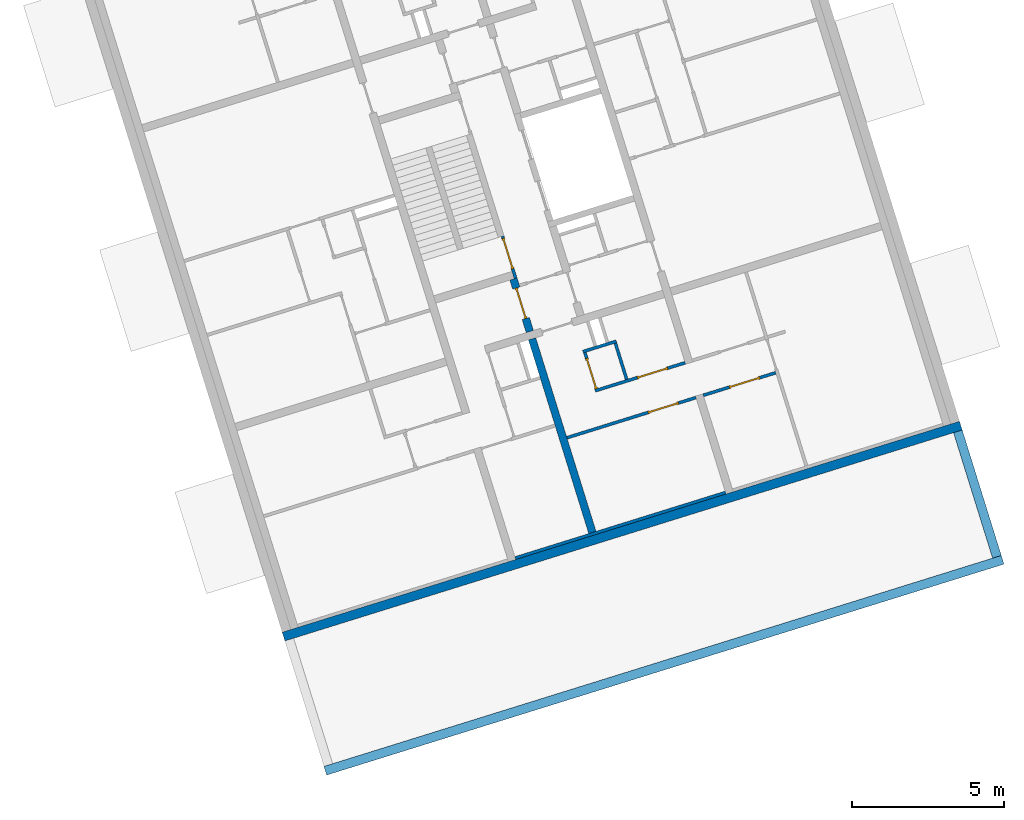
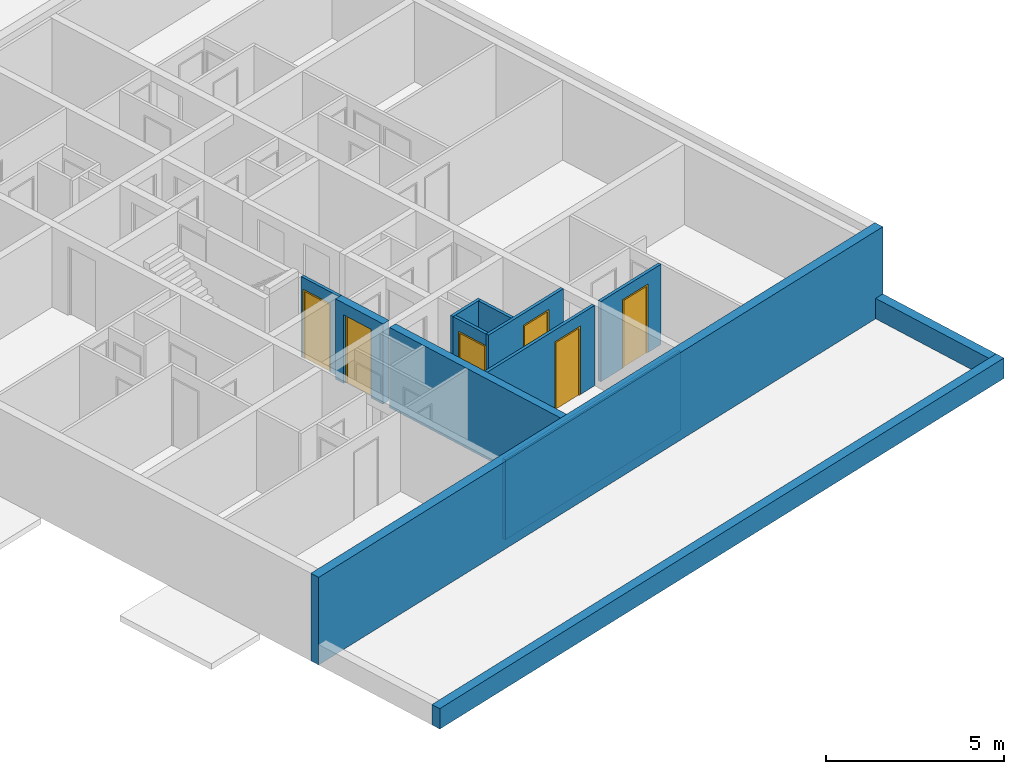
# One storey, part 3 of 9: 13 walls, 6 doors, 7 openings.
"""IFC4 building model written with IfcOpenShell, lengths in metres."""

from ifc_helpers import new_model, entity, si_unit, converted_unit, direction, frame, origin, place, context, subcontext, project, spatial, indexed_curve, outline, extrude, polygons, source, transform, mapped, material, constituent, constituent_set, type_object, type_shapes, element, fill, save


model = new_model("IFC4")

# Units and contexts
model_context = context("Model", 3, precision=1e-05, world=origin(), true_north=direction((6.12323399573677e-17, 1.0)))
body_context = subcontext(model_context, "Body", "Model", "MODEL_VIEW")
ifc_project = project(units=[si_unit("LENGTHUNIT", "METRE"), si_unit("AREAUNIT", "SQUARE_METRE"), converted_unit("PLANEANGLEUNIT", "DEGREE", entity("IfcPlaneAngleMeasure", 0.0174532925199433), si_unit("PLANEANGLEUNIT", "RADIAN"), dimensions=[0, 0, 0, 0, 0, 0, 0]), si_unit("VOLUMEUNIT", "CUBIC_METRE")], contexts=[model_context])

# Site, building, storey
site_placement = place(None, frame((13.1347999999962, 11.9886000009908, 0.0), z_axis=(0.0, 0.0, 1.0), x_axis=(0.954770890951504, 0.297342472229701, 0.0)))
site = spatial("IfcSite", under=ifc_project, at=site_placement, Name="Schiehaven", CompositionType="ELEMENT")
building_placement = place(site_placement, origin())
building = spatial("IfcBuilding", under=site, at=building_placement, Name="VORM huis", CompositionType="ELEMENT")
storey_placement = place(building_placement, frame((0.0, 0.0, 6.9)))
storey = spatial("IfcBuildingStorey", under=building, at=storey_placement, Name="02 tweede verdieping", CompositionType="ELEMENT", Elevation=6.9)

# Walls
ifc_material_1 = material(Name="ntb_ntb_ntb", Category="Miscellaneous")
wall_type_1 = type_object("IfcWallType", Name="Basic Wall:21_WA_gevel_binnenspouwwand 100mm_gen", PredefinedType="STANDARD")
wall_1_placement = place(storey_placement, frame((65.1250000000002, 5.0499999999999, 0.0)))
element("IfcWall", 1, at=wall_1_placement, inside=storey, type_object=wall_type_1, material=ifc_material_1, Name="Binnenspouwblad", ObjectType="Wand", PredefinedType="NOTDEFINED", context=body_context, shape_type="SweptSolid", body=[
    extrude(outline(indexed_curve([(7.24999999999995, 0.0500000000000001), (1.59680748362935e-16, 0.0500000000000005), (-1.59680748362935e-16, -0.0500000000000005), (7.24999999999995, -0.050000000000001), (7.24999999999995, 0.0500000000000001)], self_intersect=False)), origin(), (0.0, 0.0, 1.0), 2.75),
])
wall_type_2 = type_object("IfcWallType", Name="Basic Wall: 300mm_gen", PredefinedType="STANDARD")
wall_2_placement = place(storey_placement, frame((57.075, 4.8499999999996, 0.0)))
element("IfcWall", 2, at=wall_2_placement, inside=storey, type_object=wall_type_2, material=ifc_material_1, Name="Gevelwand", ObjectType="Wand", PredefinedType="NOTDEFINED", context=body_context, shape_type="SweptSolid", body=[
    extrude(outline(indexed_curve([(23.3500000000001, 0.15), (1.78509395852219e-15, 0.149999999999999), (-1.78509395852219e-15, -0.15), (23.3500000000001, -0.15), (23.3500000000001, 0.15)], self_intersect=False)), origin(), (0.0, 0.0, 1.0), 3.0),
])
wall_3_placement = place(storey_placement, frame((57.0750000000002, 0.22499999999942, 0.0)))
element("IfcWall", 3, at=wall_3_placement, inside=storey, type_object=wall_type_2, material=ifc_material_1, Name="Gevelwand", ObjectType="Wand", PredefinedType="NOTDEFINED", context=body_context, shape_type="SweptSolid", body=[
    extrude(outline(indexed_curve([(23.3500000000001, 0.15), (-2.93486760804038e-15, 0.15), (2.93486760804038e-15, -0.15), (23.3500000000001, -0.15), (23.3500000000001, 0.15)], self_intersect=False)), origin(), (0.0, 0.0, 1.0), 0.700000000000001),
])
wall_4_placement = place(storey_placement, frame((80.2750000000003, 0.374999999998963, 0.0), z_axis=(0.0, 0.0, 1.0), x_axis=(0.0, 1.0, 0.0)))
element("IfcWall", 4, at=wall_4_placement, inside=storey, type_object=wall_type_2, material=ifc_material_1, Name="Gevelwand", ObjectType="Wand", PredefinedType="NOTDEFINED", context=body_context, shape_type="SweptSolid", body=[
    extrude(outline(indexed_curve([(4.32500000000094, 0.150000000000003), (-9.06894673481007e-17, 0.150000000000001), (9.06894673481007e-17, -0.150000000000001), (4.32500000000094, -0.149999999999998), (4.32500000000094, 0.150000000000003)], self_intersect=False)), origin(), (0.0, 0.0, 1.0), 0.700000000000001),
])
wall_type_3 = type_object("IfcWallType", Name="Basic Wall:22_WA_afbouw_binnenwand 250mm_gen", PredefinedType="STANDARD")
wall_5_placement = place(storey_placement, frame((67.7999999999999, 11.7749999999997, 0.0), z_axis=(0.0, 0.0, 1.0), x_axis=(0.0, -1.0, 0.0)))
element("IfcWall", 5, at=wall_5_placement, inside=storey, type_object=wall_type_3, material=ifc_material_1, Name="Binnenwand", ObjectType="Wand", PredefinedType="NOTDEFINED", context=body_context, shape_type="SweptSolid", body=[
    extrude(outline(indexed_curve([(6.67500000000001, 0.124999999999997), (-6.98570836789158e-16, 0.124999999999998), (6.98570836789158e-16, -0.124999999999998), (6.67500000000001, -0.124999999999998), (6.67500000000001, 0.124999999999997)], self_intersect=False)), origin(), (0.0, 0.0, 1.0), 2.75),
])

# Wall, opening, door
wall_6_placement = place(storey_placement, frame((67.7999999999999, 13.8399999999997, 0.0), z_axis=(0.0, 0.0, 1.0), x_axis=(0.0, -1.0, 0.0)))
wall_6 = element("IfcWall", 6, at=wall_6_placement, inside=storey, type_object=wall_type_3, material=ifc_material_1, Name="Binnenwand", ObjectType="Wand", PredefinedType="NOTDEFINED", context=body_context, shape_type="Tessellation", body=[
    polygons([(0.0, -0.125000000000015, 1.08286712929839e-15), (0.315000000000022, -0.125000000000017, 1.08286712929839e-15), (0.315000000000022, -0.125000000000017, 2.34999999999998), (1.36500000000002, -0.125000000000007, 2.34999999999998), (1.36500000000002, -0.125000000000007, 1.08286712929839e-15), (1.815, -0.12500000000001, 1.08286712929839e-15), (1.815, -0.12500000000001, 2.75), (0.0, -0.125000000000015, 2.75), (0.315000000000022, 0.124999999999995, 2.34999999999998), (0.315000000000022, 0.124999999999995, 1.08286712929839e-15), (0.215000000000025, 0.124999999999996, 0.0), (0.0, 0.124999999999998, 1.08286712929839e-15), (0.0, 0.124999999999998, 2.75), (0.215000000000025, 0.124999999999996, 2.75), (0.315000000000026, 0.124999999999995, 2.75), (1.815, 0.125000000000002, 2.75), (1.815, 0.125000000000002, 1.08286712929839e-15), (1.36500000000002, 0.125000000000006, 1.08286712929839e-15), (1.36500000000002, 0.125000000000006, 2.34999999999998), (0.0, 0.0250000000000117, 0.0), (0.0, 0.0250000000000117, 2.75)], [[[1, 2, 3, 4, 5, 6, 7, 8]], [[9, 10, 11, 12, 13, 14, 15, 16, 17, 18, 19]], [[12, 11, 10, 2, 1, 20]], [[7, 6, 17, 16]], [[8, 7, 16, 15, 14, 13, 21]], [[5, 4, 19, 18]], [[3, 2, 10, 9]], [[4, 3, 9, 19]], [[1, 8, 21, 13, 12, 20]], [[18, 17, 6, 5]]], closed=True),
])
opening_1_placement = place(wall_6_placement, frame((0.31500000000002, -0.124999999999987, 0.0)))
opening_1 = element("IfcOpeningElement", 7, at=opening_1_placement, cuts=wall_6, Name="Woningtoegangsdeur", PredefinedType="OPENING", context=body_context, shape_type="SweptSolid", body=[
    extrude(outline(indexed_curve([(2.34999999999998, 1.05), (0.0, 1.05), (0.0, 1.35358391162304e-15), (2.34999999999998, 1.35358391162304e-15), (2.34999999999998, 1.05)], self_intersect=False)), frame((0.0, 0.0, 0.0), z_axis=(0.0, 1.0, 0.0), x_axis=(0.0, 0.0, 1.0)), (0.0, 0.0, 1.0), 0.25),
])
ifc_material_2 = material(Name="PD_a_binnenwandopeningen", Category="Miscellaneous")
ifc_constituent_1 = constituent(ifc_material_2, Name="PD_a_binnenwandopeningen", Category="Miscellaneous")
ifc_material_3 = material(Name="metaal_aluminium_ntb", Category="Miscellaneous")
ifc_constituent_2 = constituent(ifc_material_3, Name="metaal_aluminium_ntb", Category="Miscellaneous")
ifc_constituent_set_1 = constituent_set(constituents=[ifc_constituent_1, ifc_constituent_2])
ifc_constituent_3 = constituent(ifc_material_2, Name="PD_a_binnenwandopeningen", Category="Miscellaneous")
ifc_constituent_4 = constituent(ifc_material_3, Name="Panel", Category="Miscellaneous")
ifc_constituent_set_2 = constituent_set(constituents=[ifc_constituent_3, ifc_constituent_4])
door_type_1 = type_object("IfcDoorType", Name="32_DO_binnendeur enkel:woningtoegangsdeur", OperationType="REVOLVING", PredefinedType="DOOR", material=ifc_constituent_set_2)
shared_shape_1 = source(origin(), body_context, "Body", "SweptSolid", [
    extrude(outline(indexed_curve([(-1.16249999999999, -0.525000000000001), (1.18749999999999, -0.525), (1.18749999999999, 0.525000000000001), (-1.16249999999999, 0.525000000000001), (-1.16249999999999, 0.475), (1.13749999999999, 0.475), (1.13749999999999, -0.475), (-1.16249999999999, -0.475), (-1.16249999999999, -0.525000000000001)], self_intersect=False)), frame((0.525000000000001, 0.0749999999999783, 1.16249999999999), z_axis=(0.0, 1.0, 0.0), x_axis=(0.0, 0.0, 1.0)), (0.0, 0.0, 1.0), 0.1),
    extrude(outline(indexed_curve([(-0.025, -0.475), (0.025, -0.475), (0.025, 0.475), (-0.025, 0.475), (-0.025, -0.475)], self_intersect=False)), frame((0.525000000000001, 0.12499999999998, 0.0), z_axis=(0.0, 0.0, 1.0), x_axis=(0.0, 1.0, 0.0)), (0.0, 0.0, 1.0), 2.29999999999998),
])
type_shapes(door_type_1, [shared_shape_1])
door_1_placement = place(opening_1_placement, origin())
door_1 = element("IfcDoor", 8, at=door_1_placement, inside=storey, type_object=door_type_1, material=ifc_constituent_set_1, Name="Woningtoegangsdeur", ObjectType="Deur", OperationType="REVOLVING", OverallHeight=2.34999999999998, OverallWidth=1.05, PredefinedType="DOOR", context=body_context, shape_type="MappedRepresentation", body=[
    mapped(shared_shape_1, transform((0.0, 0.0, 0.0), scale=1.0)),
])
fill(opening_1, door_1)

wall_type_4 = type_object("IfcWallType", Name="Basic Wall:22_WA_afbouw_binnenwand 100mm_gen", PredefinedType="STANDARD")
wall_7_placement = place(storey_placement, frame((67.8749999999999, 13.8399999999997, 0.0), z_axis=(0.0, 0.0, 1.0), x_axis=(0.0, 1.0, 0.0)))
wall_7 = element("IfcWall", 9, at=wall_7_placement, inside=storey, type_object=wall_type_4, material=ifc_material_1, Name="Binnenwand", ObjectType="Wand", PredefinedType="NOTDEFINED", context=body_context, shape_type="Tessellation", body=[
    polygons([(1.44999999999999, -0.0500000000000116, 1.08286712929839e-15), (1.44999999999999, -0.0500000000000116, 2.75), (0.0, -0.0500000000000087, 2.75), (0.0, -0.0500000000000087, 1.08286712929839e-15), (0.324999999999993, -0.0500000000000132, 1.08286712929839e-15), (0.324999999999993, -0.0500000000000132, 2.34999999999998), (1.37499999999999, -0.0500000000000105, 2.34999999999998), (1.37499999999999, -0.0500000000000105, 1.08286712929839e-15), (1.44999999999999, 0.0500000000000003, 2.75), (1.44999999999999, 0.0500000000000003, 1.08286712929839e-15), (1.37499999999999, 0.0500000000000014, 1.08286712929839e-15), (1.37499999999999, 0.0500000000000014, 2.34999999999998), (0.324999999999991, 0.0499999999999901, 2.34999999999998), (0.324999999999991, 0.0499999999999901, 1.08286712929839e-15), (0.250000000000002, 0.0499999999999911, 0.0), (2.16573425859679e-15, 0.0499999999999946, 1.08286712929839e-15), (2.16573425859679e-15, 0.0499999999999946, 2.75), (0.250000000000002, 0.0499999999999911, 2.75)], [[[1, 2, 3, 4, 5, 6, 7, 8]], [[9, 10, 11, 12, 13, 14, 15, 16, 17, 18]], [[4, 16, 15, 14, 5]], [[2, 1, 10, 9]], [[3, 2, 9, 18, 17]], [[13, 6, 5, 14]], [[7, 12, 11, 8]], [[6, 13, 12, 7]], [[4, 3, 17, 16]], [[10, 1, 8, 11]]], closed=True),
])
opening_2_placement = place(wall_7_placement, frame((0.324999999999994, -0.0499999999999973, 0.0)))
opening_2 = element("IfcOpeningElement", 10, at=opening_2_placement, cuts=wall_7, Name="Vluchtdeur", PredefinedType="OPENING", context=body_context, shape_type="SweptSolid", body=[
    extrude(outline(indexed_curve([(2.34999999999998, 1.35358391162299e-15), (2.34999999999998, 1.05), (0.0, 1.05), (0.0, 1.35358391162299e-15), (2.34999999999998, 1.35358391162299e-15)], self_intersect=False)), frame((0.0, 0.0, 0.0), z_axis=(0.0, 1.0, 0.0), x_axis=(0.0, 0.0, 1.0)), (0.0, 0.0, 1.0), 0.1),
])
ifc_constituent_5 = constituent(ifc_material_2, Name="PD_a_binnenwandopeningen", Category="Miscellaneous")
ifc_constituent_6 = constituent(ifc_material_3, Name="metaal_aluminium_ntb", Category="Miscellaneous")
ifc_constituent_set_3 = constituent_set(constituents=[ifc_constituent_5, ifc_constituent_6])
ifc_constituent_7 = constituent(ifc_material_2, Name="PD_a_binnenwandopeningen", Category="Miscellaneous")
ifc_constituent_8 = constituent(ifc_material_3, Name="Panel", Category="Miscellaneous")
ifc_constituent_set_4 = constituent_set(constituents=[ifc_constituent_7, ifc_constituent_8])
door_type_2 = type_object("IfcDoorType", Name="32_DO_binnendeur enkel:binnendeur zelfsluitend 30min", OperationType="NOTDEFINED", PredefinedType="DOOR", material=ifc_constituent_set_4)
shared_shape_2 = source(origin(), body_context, "Body", "SweptSolid", [
    extrude(outline(indexed_curve([(0.475, -1.16249999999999), (0.525, -1.16249999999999), (0.525, 1.18749999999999), (-0.525, 1.18749999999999), (-0.525, -1.16249999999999), (-0.475, -1.16249999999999), (-0.475, 1.13749999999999), (0.475, 1.13749999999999), (0.475, -1.16249999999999)], self_intersect=False)), frame((0.525000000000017, 0.100000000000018, 1.16249999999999), z_axis=(0.0, -1.0, 0.0), x_axis=(1.0, 0.0, 0.0)), (0.0, 0.0, 1.0), 0.1),
    extrude(outline(indexed_curve([(-0.475, -0.025), (0.475, -0.025), (0.475, 0.025), (-0.475, 0.025), (-0.475, -0.025)], self_intersect=False)), frame((0.525000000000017, 0.0499999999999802, 0.0)), (0.0, 0.0, 1.0), 2.29999999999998),
])
type_shapes(door_type_2, [shared_shape_2])
door_2_placement = place(opening_2_placement, origin())
door_2 = element("IfcDoor", 11, at=door_2_placement, inside=storey, type_object=door_type_2, material=ifc_constituent_set_3, Name="Vluchtdeur", ObjectType="Deur", OperationType="NOTDEFINED", OverallHeight=2.34999999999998, OverallWidth=1.05, PredefinedType="DOOR", context=body_context, shape_type="MappedRepresentation", body=[
    mapped(shared_shape_2, transform((0.0, 0.0, 0.0), scale=1.0)),
])
fill(opening_2, door_2)

wall_8_placement = place(storey_placement, frame((72.375, 8.32499999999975, 0.0), z_axis=(0.0, 0.0, 1.0), x_axis=(-1.0, 0.0, 0.0)))
wall_8 = element("IfcWall", 12, at=wall_8_placement, inside=storey, type_object=wall_type_4, material=ifc_material_1, Name="Binnenwand", ObjectType="Wand", PredefinedType="NOTDEFINED", context=body_context, shape_type="Tessellation", body=[
    polygons([(-1.02529302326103e-15, -0.0500000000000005, 1.08286712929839e-15), (0.600000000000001, -0.0500000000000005, 1.08286712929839e-15), (0.600000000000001, -0.0500000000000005, 2.34999999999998), (1.65000000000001, -0.0500000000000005, 2.34999999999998), (1.65000000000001, -0.0500000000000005, 1.08286712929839e-15), (4.45000000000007, -0.0500000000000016, 1.08286712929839e-15), (4.45000000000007, -0.0500000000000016, 2.75), (-1.02529302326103e-15, -0.0500000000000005, 2.75), (0.600000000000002, 0.0499999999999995, 2.34999999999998), (0.600000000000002, 0.0499999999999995, 1.08286712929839e-15), (2.28205931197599e-16, 0.0499999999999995, 1.08286712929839e-15), (2.28205931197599e-16, 0.0499999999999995, 2.75), (4.45000000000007, 0.0499999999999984, 2.75), (4.45000000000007, 0.0499999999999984, 1.08286712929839e-15), (1.65000000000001, 0.0499999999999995, 1.08286712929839e-15), (1.65000000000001, 0.0499999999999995, 2.34999999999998)], [[[1, 2, 3, 4, 5, 6, 7, 8]], [[9, 10, 11, 12, 13, 14, 15, 16]], [[11, 10, 2, 1]], [[7, 6, 14, 13]], [[8, 7, 13, 12]], [[1, 8, 12, 11]], [[5, 4, 16, 15]], [[3, 2, 10, 9]], [[4, 3, 9, 16]], [[15, 14, 6, 5]]], closed=True),
])
opening_3_placement = place(wall_8_placement, frame((1.65000000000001, 0.0500000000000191, 0.0)))
opening_3 = element("IfcOpeningElement", 13, at=opening_3_placement, cuts=wall_8, Name="Binnendeur", PredefinedType="OPENING", context=body_context, shape_type="SweptSolid", body=[
    extrude(outline(indexed_curve([(2.34999999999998, 2.1208950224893e-30), (2.34999999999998, 1.05), (0.0, 1.05), (0.0, 2.1208950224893e-30), (2.34999999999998, 2.1208950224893e-30)], self_intersect=False)), frame((0.0, 0.0, 0.0), z_axis=(0.0, -1.0, 0.0), x_axis=(0.0, 0.0, 1.0)), (0.0, 0.0, 1.0), 0.1),
])
ifc_constituent_9 = constituent(ifc_material_2, Name="PD_a_binnenwandopeningen", Category="Miscellaneous")
ifc_constituent_10 = constituent(ifc_material_3, Name="metaal_aluminium_ntb", Category="Miscellaneous")
ifc_constituent_set_5 = constituent_set(constituents=[ifc_constituent_9, ifc_constituent_10])
ifc_constituent_11 = constituent(ifc_material_2, Name="PD_a_binnenwandopeningen", Category="Miscellaneous")
ifc_constituent_12 = constituent(ifc_material_3, Name="Panel", Category="Miscellaneous")
ifc_constituent_set_6 = constituent_set(constituents=[ifc_constituent_11, ifc_constituent_12])
door_type_3 = type_object("IfcDoorType", Name="32_DO_binnendeur enkel:binnendeur", OperationType="REVOLVING", PredefinedType="DOOR", material=ifc_constituent_set_6)
shared_shape_3 = source(origin(), body_context, "Body", "SweptSolid", [
    extrude(outline(indexed_curve([(0.475, -1.16249999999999), (0.525, -1.16249999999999), (0.525, 1.18749999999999), (-0.525, 1.18749999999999), (-0.525, -1.16249999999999), (-0.475, -1.16249999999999), (-0.475, 1.13749999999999), (0.475, 1.13749999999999), (0.475, -1.16249999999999)], self_intersect=False)), frame((0.525000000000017, 0.100000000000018, 1.16249999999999), z_axis=(0.0, -1.0, 0.0), x_axis=(1.0, 0.0, 0.0)), (0.0, 0.0, 1.0), 0.1),
    extrude(outline(indexed_curve([(-0.475, -0.025), (0.475, -0.025), (0.475, 0.025), (-0.475, 0.025), (-0.475, -0.025)], self_intersect=False)), frame((0.525000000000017, 0.0499999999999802, 0.0)), (0.0, 0.0, 1.0), 2.29999999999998),
])
type_shapes(door_type_3, [shared_shape_3])
door_3_placement = place(opening_3_placement, frame((0.0, 0.0, 0.0), z_axis=(0.0, 0.0, 1.0), x_axis=(-1.0, 0.0, 0.0)))
door_3 = element("IfcDoor", 14, at=door_3_placement, inside=storey, type_object=door_type_3, material=ifc_constituent_set_5, Name="Binnendeur", ObjectType="Deur", OperationType="REVOLVING", OverallHeight=2.34999999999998, OverallWidth=1.05, PredefinedType="DOOR", context=body_context, shape_type="MappedRepresentation", body=[
    mapped(shared_shape_3, transform((0.0, 0.0, 0.0), scale=1.0)),
])
fill(opening_3, door_3)

# Wall, openings, door
wall_9_placement = place(storey_placement, frame((72.375, 9.52499999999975, 0.0), z_axis=(0.0, 0.0, 1.0), x_axis=(-1.0, 0.0, 0.0)))
wall_9 = element("IfcWall", 15, at=wall_9_placement, inside=storey, type_object=wall_type_4, material=ifc_material_1, Name="Binnenwand", ObjectType="Wand", PredefinedType="NOTDEFINED", context=body_context, shape_type="Tessellation", body=[
    polygons([(1.65, -0.0500000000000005, 2.34999999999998), (1.65, -0.0500000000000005, 1.08286712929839e-15), (1.95000000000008, -0.0500000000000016, 0.0), (2.05000000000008, -0.0500000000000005, 0.0), (3.10000000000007, -0.0500000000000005, 1.08286712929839e-15), (3.10000000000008, -0.0500000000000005, 2.34999999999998), (3.10000000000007, -0.0500000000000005, 2.75), (3.00000000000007, -0.0500000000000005, 2.75), (2.05000000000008, -0.0500000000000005, 2.75), (1.95000000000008, -0.0500000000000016, 2.75), (1.25859359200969e-15, -0.0500000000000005, 2.75), (1.25859359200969e-15, -0.0500000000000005, 1.08286712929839e-15), (0.599999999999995, -0.0500000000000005, 1.08286712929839e-15), (0.599999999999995, -0.0500000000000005, 2.34999999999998), (3.10000000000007, 0.0499999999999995, 1.08286712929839e-15), (1.65, 0.0499999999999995, 1.08286712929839e-15), (1.65, 0.0499999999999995, 2.34999999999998), (0.599999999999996, 0.0499999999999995, 2.34999999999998), (0.599999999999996, 0.0499999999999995, 1.08286712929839e-15), (2.51209254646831e-15, 0.0499999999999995, 1.08286712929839e-15), (2.51209254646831e-15, 0.0499999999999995, 2.75), (3.10000000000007, 0.0499999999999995, 2.75)], [[[1, 2, 3, 4, 5, 6, 7, 8, 9, 10, 11, 12, 13, 14]], [[15, 16, 17, 18, 19, 20, 21, 22]], [[13, 12, 20, 19]], [[11, 10, 9, 8, 7, 22, 21]], [[12, 11, 21, 20]], [[19, 18, 14, 13]], [[17, 16, 2, 1]], [[18, 17, 1, 14]], [[7, 6, 5, 15, 22]], [[5, 4, 3, 2, 16, 15]]], closed=True),
])
opening_4_placement = place(wall_9_placement, origin())
element("IfcOpeningElement", 16, at=opening_4_placement, cuts=wall_9, Name="Binnendeur", PredefinedType="OPENING", context=body_context, shape_type="SweptSolid", body=[
    extrude(outline(indexed_curve([(-0.050000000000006, -1.17499999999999), (0.0499999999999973, -1.17499999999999), (0.0499999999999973, 1.17499999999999), (-0.050000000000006, 1.17499999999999), (-0.050000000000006, -1.17499999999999)], self_intersect=False)), frame((3.05000000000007, -1.1, 1.17499999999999), z_axis=(0.0, 1.0, 0.0), x_axis=(1.0, 0.0, 0.0)), (0.0, 0.0, 1.0), 1.05),
])
opening_5_placement = place(wall_9_placement, frame((0.599999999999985, -0.0499999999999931, 0.0)))
opening_5 = element("IfcOpeningElement", 17, at=opening_5_placement, cuts=wall_9, Name="Binnendeur", PredefinedType="OPENING", context=body_context, shape_type="SweptSolid", body=[
    extrude(outline(indexed_curve([(2.34999999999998, 2.1208950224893e-30), (2.34999999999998, 1.05), (0.0, 1.05), (0.0, 2.1208950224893e-30), (2.34999999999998, 2.1208950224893e-30)], self_intersect=False)), frame((0.0, 0.0, 0.0), z_axis=(0.0, 1.0, 0.0), x_axis=(0.0, 0.0, 1.0)), (0.0, 0.0, 1.0), 0.1),
])
ifc_constituent_13 = constituent(ifc_material_2, Name="PD_a_binnenwandopeningen", Category="Miscellaneous")
ifc_constituent_14 = constituent(ifc_material_3, Name="metaal_aluminium_ntb", Category="Miscellaneous")
ifc_constituent_set_7 = constituent_set(constituents=[ifc_constituent_13, ifc_constituent_14])
door_4_placement = place(opening_5_placement, origin())
door_4 = element("IfcDoor", 18, at=door_4_placement, inside=storey, type_object=door_type_3, material=ifc_constituent_set_7, Name="Binnendeur", ObjectType="Deur", OperationType="REVOLVING", OverallHeight=2.34999999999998, OverallWidth=1.05, PredefinedType="DOOR", context=body_context, shape_type="MappedRepresentation", body=[
    mapped(shared_shape_3, transform((0.0, 0.0, 0.0), scale=1.0)),
])
fill(opening_5, door_4)

# Wall, opening, door
wall_10_placement = place(storey_placement, frame((69.3249999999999, 9.57499999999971, 0.0), z_axis=(0.0, 0.0, 1.0), x_axis=(0.0, 1.0, 0.0)))
wall_10 = element("IfcWall", 19, at=wall_10_placement, inside=storey, type_object=wall_type_4, material=ifc_material_1, Name="Binnenwand", ObjectType="Wand", PredefinedType="NOTDEFINED", context=body_context, shape_type="Tessellation", body=[
    polygons([(1.25, -0.0500000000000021, 2.75), (3.24860138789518e-15, -0.0500000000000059, 2.75), (1.08286712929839e-15, -0.0500000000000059, 2.34999999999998), (1.05, -0.0500000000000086, 2.34999999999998), (1.05, -0.0500000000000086, 1.08286712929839e-15), (1.25, -0.0500000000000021, 1.08286712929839e-15), (1.08286712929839e-15, 0.0499999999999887, 2.75), (1.25, 0.0500000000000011, 2.75), (1.25, 0.0500000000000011, 1.08286712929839e-15), (1.05, 0.0500000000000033, 1.08286712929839e-15), (1.05, 0.0499999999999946, 2.34999999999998), (1.08286712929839e-15, 0.0499999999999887, 2.34999999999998)], [[[1, 2, 3, 4, 5, 6]], [[7, 8, 9, 10, 11, 12]], [[9, 6, 5, 10]], [[2, 1, 8, 7]], [[4, 11, 10, 5]], [[11, 4, 3, 12]], [[1, 6, 9, 8]], [[2, 7, 12, 3]]], closed=True),
])
opening_6_placement = place(wall_10_placement, frame((0.0, -0.0499999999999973, 0.0)))
opening_6 = element("IfcOpeningElement", 20, at=opening_6_placement, cuts=wall_10, Name="Binnendeur", PredefinedType="OPENING", context=body_context, shape_type="SweptSolid", body=[
    extrude(outline(indexed_curve([(2.34999999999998, 1.35358391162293e-15), (2.34999999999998, 1.05), (0.0, 1.05), (0.0, 1.35358391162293e-15), (2.34999999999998, 1.35358391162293e-15)], self_intersect=False)), frame((0.0, 0.0, 0.0), z_axis=(0.0, 1.0, 0.0), x_axis=(0.0, 0.0, 1.0)), (0.0, 0.0, 1.0), 0.1),
])
ifc_constituent_15 = constituent(ifc_material_2, Name="PD_a_binnenwandopeningen", Category="Miscellaneous")
ifc_constituent_16 = constituent(ifc_material_3, Name="metaal_aluminium_ntb", Category="Miscellaneous")
ifc_constituent_set_8 = constituent_set(constituents=[ifc_constituent_15, ifc_constituent_16])
door_5_placement = place(opening_6_placement, origin())
door_5 = element("IfcDoor", 21, at=door_5_placement, inside=storey, type_object=door_type_3, material=ifc_constituent_set_8, Name="Binnendeur", ObjectType="Deur", OperationType="REVOLVING", OverallHeight=2.34999999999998, OverallWidth=1.05, PredefinedType="DOOR", context=body_context, shape_type="MappedRepresentation", body=[
    mapped(shared_shape_3, transform((0.0, 0.0, 0.0), scale=1.0)),
])
fill(opening_6, door_5)

# Walls
wall_11_placement = place(storey_placement, frame((70.4249999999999, 10.8749999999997, 0.0), z_axis=(0.0, 0.0, 1.0), x_axis=(-1.0, 0.0, 0.0)))
element("IfcWall", 22, at=wall_11_placement, inside=storey, type_object=wall_type_4, material=ifc_material_1, Name="Binnenwand", ObjectType="Wand", PredefinedType="NOTDEFINED", context=body_context, shape_type="SweptSolid", body=[
    extrude(outline(indexed_curve([(1.15, 0.049999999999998), (6.26749477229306e-16, 0.0499999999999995), (-6.26749477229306e-16, -0.0499999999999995), (1.15, -0.0500000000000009), (1.15, 0.049999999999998)], self_intersect=False)), origin(), (0.0, 0.0, 1.0), 2.75),
])
wall_12_placement = place(storey_placement, frame((70.3749999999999, 10.8249999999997, 0.0), z_axis=(0.0, 0.0, 1.0), x_axis=(0.0, -1.0, 0.0)))
element("IfcWall", 23, at=wall_12_placement, inside=storey, type_object=wall_type_4, material=ifc_material_1, Name="Binnenwand", ObjectType="Wand", PredefinedType="NOTDEFINED", context=body_context, shape_type="SweptSolid", body=[
    extrude(outline(indexed_curve([(1.25, 0.0500000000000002), (5.75634952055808e-16, 0.0499999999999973), (-5.75634952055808e-16, -0.0499999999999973), (1.25, -0.0499999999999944), (1.25, 0.0500000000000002)], self_intersect=False)), origin(), (0.0, 0.0, 1.0), 2.75),
])

# Wall, opening, door
wall_13_placement = place(storey_placement, frame((72.625, 8.32499999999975, 0.0)))
wall_13 = element("IfcWall", 24, at=wall_13_placement, inside=storey, type_object=wall_type_4, material=ifc_material_1, Name="Binnenwand", ObjectType="Wand", PredefinedType="NOTDEFINED", context=body_context, shape_type="Tessellation", body=[
    polygons([(1.06419389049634e-16, -0.0500000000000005, 1.08286712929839e-15), (0.899999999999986, -0.0500000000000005, 1.08286712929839e-15), (0.899999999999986, -0.0500000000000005, 2.34999999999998), (1.94999999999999, -0.0500000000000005, 2.34999999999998), (1.94999999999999, -0.0500000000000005, 1.08286712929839e-15), (2.50000000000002, -0.0500000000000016, 1.08286712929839e-15), (2.50000000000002, -0.0500000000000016, 2.75), (1.06419389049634e-16, -0.0500000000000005, 2.75), (0.899999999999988, 0.0500000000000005, 2.34999999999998), (0.899999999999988, 0.0500000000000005, 1.08286712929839e-15), (1.78271439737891e-15, 0.0499999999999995, 1.08286712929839e-15), (1.78271439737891e-15, 0.0499999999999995, 2.75), (2.50000000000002, 0.0499999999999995, 2.75), (2.5, 0.0499999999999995, 1.08286712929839e-15), (1.94999999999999, 0.0500000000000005, 1.08286712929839e-15), (1.94999999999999, 0.0500000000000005, 2.34999999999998)], [[[1, 2, 3, 4, 5, 6, 7, 8]], [[9, 10, 11, 12, 13, 14, 15, 16]], [[11, 10, 2, 1]], [[8, 7, 13, 12]], [[1, 8, 12, 11]], [[5, 4, 16, 15]], [[3, 2, 10, 9]], [[4, 3, 9, 16]], [[7, 6, 14, 13]], [[15, 14, 6, 5]]], closed=True),
])
opening_7_placement = place(wall_13_placement, frame((0.899999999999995, -0.0499999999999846, 0.0)))
opening_7 = element("IfcOpeningElement", 25, at=opening_7_placement, cuts=wall_13, Name="Binnendeur", PredefinedType="OPENING", context=body_context, shape_type="SweptSolid", body=[
    extrude(outline(indexed_curve([(2.34999999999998, 1.05), (0.0, 1.05), (0.0, 4.67982478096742e-30), (2.34999999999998, 4.67982478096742e-30), (2.34999999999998, 1.05)], self_intersect=False)), frame((0.0, 0.0, 0.0), z_axis=(0.0, 1.0, 0.0), x_axis=(0.0, 0.0, 1.0)), (0.0, 0.0, 1.0), 0.1),
])
ifc_constituent_17 = constituent(ifc_material_2, Name="PD_a_binnenwandopeningen", Category="Miscellaneous")
ifc_constituent_18 = constituent(ifc_material_3, Name="metaal_aluminium_ntb", Category="Miscellaneous")
ifc_constituent_set_9 = constituent_set(constituents=[ifc_constituent_17, ifc_constituent_18])
ifc_constituent_19 = constituent(ifc_material_2, Name="PD_a_binnenwandopeningen", Category="Miscellaneous")
ifc_constituent_20 = constituent(ifc_material_3, Name="Panel", Category="Miscellaneous")
ifc_constituent_set_10 = constituent_set(constituents=[ifc_constituent_19, ifc_constituent_20])
door_type_4 = type_object("IfcDoorType", Name="32_DO_binnendeur enkel:binnendeur", OperationType="REVOLVING", PredefinedType="DOOR", material=ifc_constituent_set_10)
shared_shape_4 = source(origin(), body_context, "Body", "SweptSolid", [
    extrude(outline(indexed_curve([(-1.16249999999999, -0.525000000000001), (1.18749999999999, -0.525), (1.18749999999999, 0.525), (-1.16249999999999, 0.525), (-1.16249999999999, 0.475), (1.13749999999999, 0.475), (1.13749999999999, -0.475), (-1.16249999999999, -0.475), (-1.16249999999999, -0.525000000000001)], self_intersect=False)), frame((0.525000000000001, 0.0, 1.16249999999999), z_axis=(0.0, 1.0, 0.0), x_axis=(0.0, 0.0, 1.0)), (0.0, 0.0, 1.0), 0.1),
    extrude(outline(indexed_curve([(-0.025, -0.475), (0.025, -0.475), (0.025, 0.475), (-0.025, 0.475), (-0.025, -0.475)], self_intersect=False)), frame((0.525000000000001, 0.0499999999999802, 0.0), z_axis=(0.0, 0.0, 1.0), x_axis=(0.0, 1.0, 0.0)), (0.0, 0.0, 1.0), 2.29999999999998),
])
type_shapes(door_type_4, [shared_shape_4])
door_6_placement = place(opening_7_placement, origin())
door_6 = element("IfcDoor", 26, at=door_6_placement, inside=storey, type_object=door_type_4, material=ifc_constituent_set_9, Name="Binnendeur", ObjectType="Deur", OperationType="REVOLVING", OverallHeight=2.34999999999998, OverallWidth=1.05, PredefinedType="DOOR", context=body_context, shape_type="MappedRepresentation", body=[
    mapped(shared_shape_4, transform((0.0, 0.0, 0.0), scale=1.0)),
])
fill(opening_7, door_6)

save(model, "model.ifc")
